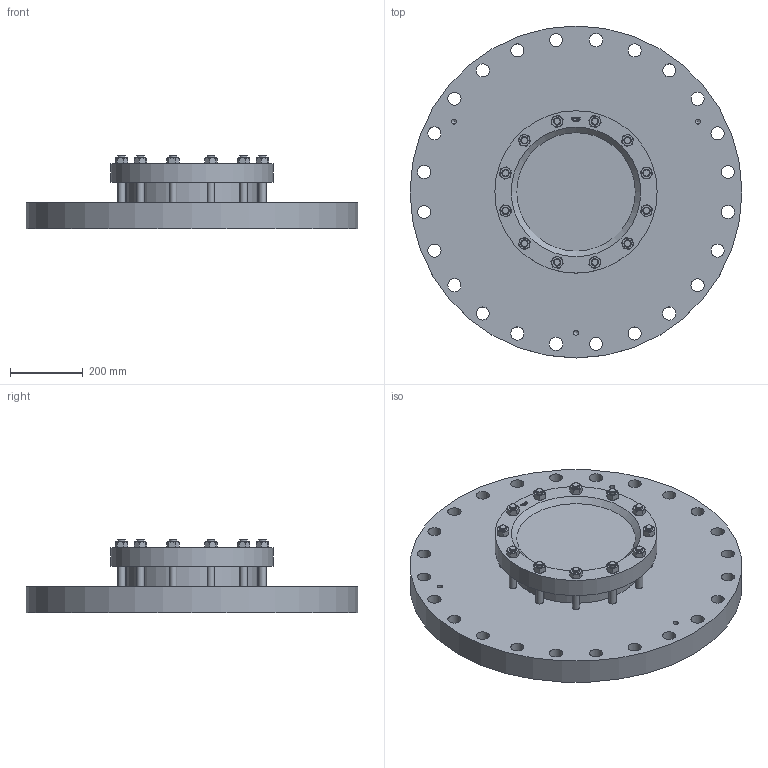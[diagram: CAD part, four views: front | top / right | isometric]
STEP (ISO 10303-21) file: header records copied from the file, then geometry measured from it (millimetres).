
FILE_DESCRIPTION(/* description */ (''),/* implementation_level */ '2;1');
FILE_NAME(/* name */ 'W:\Konstruktion_ACI\325\_STEP\325-700-16.stp',/* time_stamp */ '2022-03-02T17:29:32+01:00',/* author */ ('koslowksi'),/* organization */ (''),/* preprocessor_version */ 'ST-DEVELOPER v16.1',/* originating_system */ 'Autodesk Inventor 2016',/* authorisation */ '');
FILE_SCHEMA (('AUTOMOTIVE_DESIGN { 1 0 10303 214 3 1 1 }'));
Length unit declared in the file: millimetre
Products named in the file (1): 325-700-16
Bounding box: 910 x 910 x 201 mm (x, y, z)
Volume: 57044137.8 mm3; surface area: 1975898.4 mm2
Topology: 1 solids, 3 shells, 561 faces, 1404 edges, 895 vertices
Faces by surface type: plane 235, cone 160, bspline 108, cylinder 58
Full cylindrical faces by diameter (mm): 13.835 x3, 20 x24, 36 x24, 356 x2, 358 x2, 359 x1, 445 x1, 910 x1
Entity records: 16866 total; most frequent: CARTESIAN_POINT 4689, ORIENTED_EDGE 2582, DIRECTION 1969, EDGE_CURVE 1291, VERTEX_POINT 856, EDGE_LOOP 757, AXIS2_PLACEMENT_3D 728, FACE_OUTER_BOUND 561
